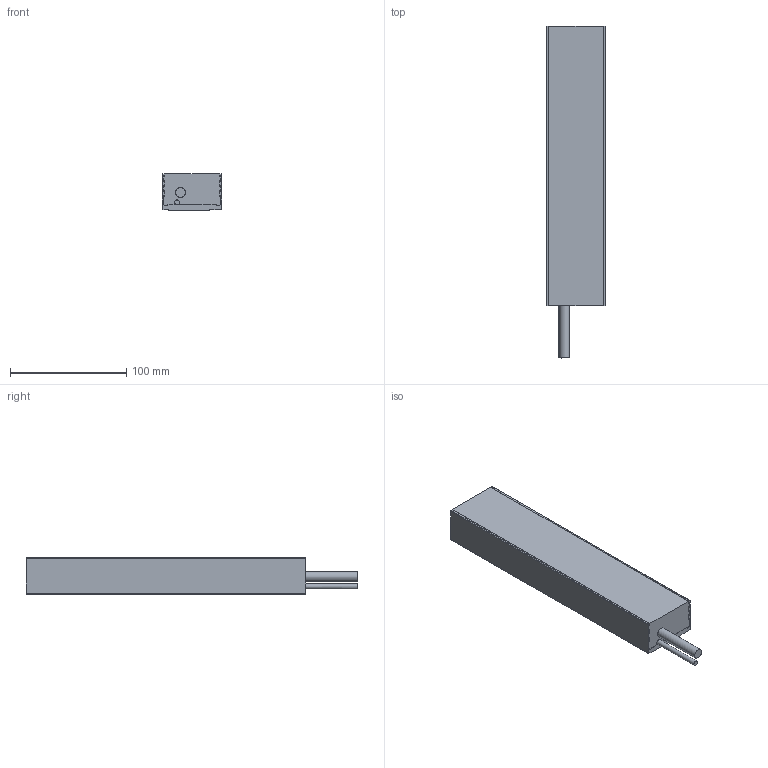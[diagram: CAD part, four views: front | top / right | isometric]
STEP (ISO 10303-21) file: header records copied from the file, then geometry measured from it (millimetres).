
FILE_DESCRIPTION(/* description */ ('Unknown'),/* implementation_level */ '2;1');
FILE_NAME(/* name */ 'Coilunit TM12_180504',/* time_stamp */ '2018-05-17T08:42:54+02:00',/* author */ ('Tecnotion B.V.'),/* organization */ ('Tecnotion B.V.'),/* preprocessor_version */ 'ST-DEVELOPER v16.7',/* originating_system */ 'DEX',/* authorisation */ $);
FILE_SCHEMA (('CONFIG_CONTROL_DESIGN','AP242_MANAGED_MODEL_BASED_3D_ENGINEERING_MIM_LF { 1 0 10303 442 1 1 4 }'));
Length unit declared in the file: millimetre
Products named in the file (1): Coilunit TM12_180504
Bounding box: 51 x 286 x 31.4 mm (x, y, z)
Volume: 386373 mm3; surface area: 45660.4 mm2
Topology: 1 solids, 1 shells, 271 faces, 718 edges, 479 vertices
Faces by surface type: plane 211, cylinder 60
Full cylindrical faces by diameter (mm): 2.459 x3, 3.3 x8, 4.3 x1, 5 x1, 8.3 x1
Entity records: 10138 total; most frequent: CARTESIAN_POINT 1443, ORIENTED_EDGE 1396, DIRECTION 1363, EDGE_CURVE 698, LINE 577, VECTOR 577, VERTEX_POINT 473, AXIS2_PLACEMENT_3D 393
